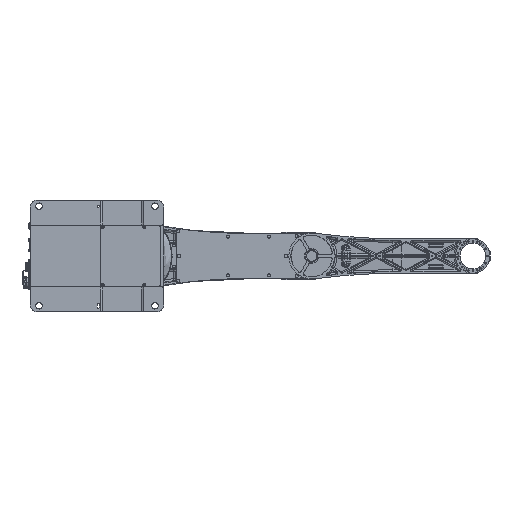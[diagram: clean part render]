
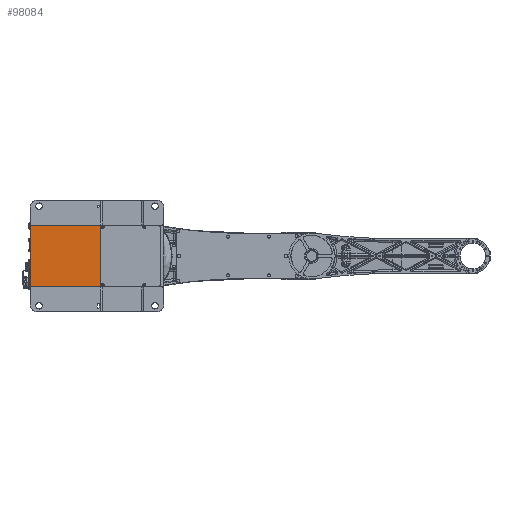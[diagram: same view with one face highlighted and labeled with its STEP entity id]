
A CAD part, front view. The second image highlights one B-rep face of the part: STEP entity #98084.
In plain terms, the highlighted planar face has unit normal (0, -1, 0).
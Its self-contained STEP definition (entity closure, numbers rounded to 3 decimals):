
#163 = ORIENTED_EDGE ( 'NONE', *, *, #109208, .T. ) ;
#4112 = CARTESIAN_POINT ( 'NONE',  ( -22.186, -248.42, 130. ) ) ;
#8954 = EDGE_CURVE ( 'NONE', #111463, #164879, #222993, .T. ) ;
#9399 = ORIENTED_EDGE ( 'NONE', *, *, #193820, .T. ) ;
#27933 = VECTOR ( 'NONE', #116498, 1000. ) ;
#33323 = VERTEX_POINT ( 'NONE', #123084 ) ;
#33617 = PLANE ( 'NONE',  #230099 ) ;
#39601 = EDGE_CURVE ( 'NONE', #131316, #33323, #206684, .T. ) ;
#41701 = CARTESIAN_POINT ( 'NONE',  ( -22.186, -248.42, 72. ) ) ;
#42209 = CARTESIAN_POINT ( 'NONE',  ( -22.186, -248.42, -72. ) ) ;
#50656 = DIRECTION ( 'NONE',  ( -1., 0., 0. ) ) ;
#54101 = DIRECTION ( 'NONE',  ( -1., 0., 0. ) ) ;
#58497 = DIRECTION ( 'NONE',  ( 0., 0., 1. ) ) ;
#66398 = CARTESIAN_POINT ( 'NONE',  ( -22.186, -248.42, 67. ) ) ;
#78954 = LINE ( 'NONE', #4112, #169318 ) ;
#80578 = EDGE_CURVE ( 'NONE', #181983, #164879, #122217, .T. ) ;
#86266 = DIRECTION ( 'NONE',  ( 0., 0., 1. ) ) ;
#87304 = VECTOR ( 'NONE', #204822, 1000. ) ;
#95312 = ORIENTED_EDGE ( 'NONE', *, *, #39601, .T. ) ;
#98084 = ADVANCED_FACE ( 'NONE', ( #169217 ), #33617, .T. ) ;
#99613 = CARTESIAN_POINT ( 'NONE',  ( -185.686, -248.42, 72. ) ) ;
#108763 = DIRECTION ( 'NONE',  ( 0., 0., 1. ) ) ;
#109127 = EDGE_CURVE ( 'NONE', #33323, #109439, #189021, .T. ) ;
#109208 = EDGE_CURVE ( 'NONE', #181983, #131316, #177679, .T. ) ;
#109439 = VERTEX_POINT ( 'NONE', #66398 ) ;
#111463 = VERTEX_POINT ( 'NONE', #41701 ) ;
#116242 = CARTESIAN_POINT ( 'NONE',  ( -185.686, -248.42, -72. ) ) ;
#116498 = DIRECTION ( 'NONE',  ( 1., 0., 0. ) ) ;
#118859 = ORIENTED_EDGE ( 'NONE', *, *, #80578, .F. ) ;
#122217 = LINE ( 'NONE', #233465, #158776 ) ;
#123084 = CARTESIAN_POINT ( 'NONE',  ( -22.186, -248.42, -67. ) ) ;
#131316 = VERTEX_POINT ( 'NONE', #178042 ) ;
#135463 = CARTESIAN_POINT ( 'NONE',  ( 196.877, -248.42, -72. ) ) ;
#144177 = CARTESIAN_POINT ( 'NONE',  ( 44.314, -248.42, 0. ) ) ;
#147357 = VECTOR ( 'NONE', #86266, 1000. ) ;
#158088 = CARTESIAN_POINT ( 'NONE',  ( -22.186, -248.42, -72. ) ) ;
#158776 = VECTOR ( 'NONE', #108763, 1000. ) ;
#160796 = ORIENTED_EDGE ( 'NONE', *, *, #109127, .T. ) ;
#162270 = DIRECTION ( 'NONE',  ( 0., -1., 0. ) ) ;
#164879 = VERTEX_POINT ( 'NONE', #99613 ) ;
#169217 = FACE_OUTER_BOUND ( 'NONE', #215322, .T. ) ;
#169318 = VECTOR ( 'NONE', #58497, 1000. ) ;
#175096 = VECTOR ( 'NONE', #50656, 1000. ) ;
#175476 = CARTESIAN_POINT ( 'NONE',  ( 196.877, -248.42, 72. ) ) ;
#177679 = LINE ( 'NONE', #135463, #27933 ) ;
#178042 = CARTESIAN_POINT ( 'NONE',  ( -22.186, -248.42, -72. ) ) ;
#181983 = VERTEX_POINT ( 'NONE', #116242 ) ;
#187269 = ORIENTED_EDGE ( 'NONE', *, *, #8954, .T. ) ;
#189021 = LINE ( 'NONE', #42209, #87304 ) ;
#193820 = EDGE_CURVE ( 'NONE', #109439, #111463, #78954, .T. ) ;
#204822 = DIRECTION ( 'NONE',  ( 0., 0., 1. ) ) ;
#206684 = LINE ( 'NONE', #158088, #147357 ) ;
#215322 = EDGE_LOOP ( 'NONE', ( #163, #95312, #160796, #9399, #187269, #118859 ) ) ;
#222993 = LINE ( 'NONE', #175476, #175096 ) ;
#230099 = AXIS2_PLACEMENT_3D ( 'NONE', #144177, #162270, #54101 ) ;
#233465 = CARTESIAN_POINT ( 'NONE',  ( -185.686, -248.42, 80. ) ) ;
